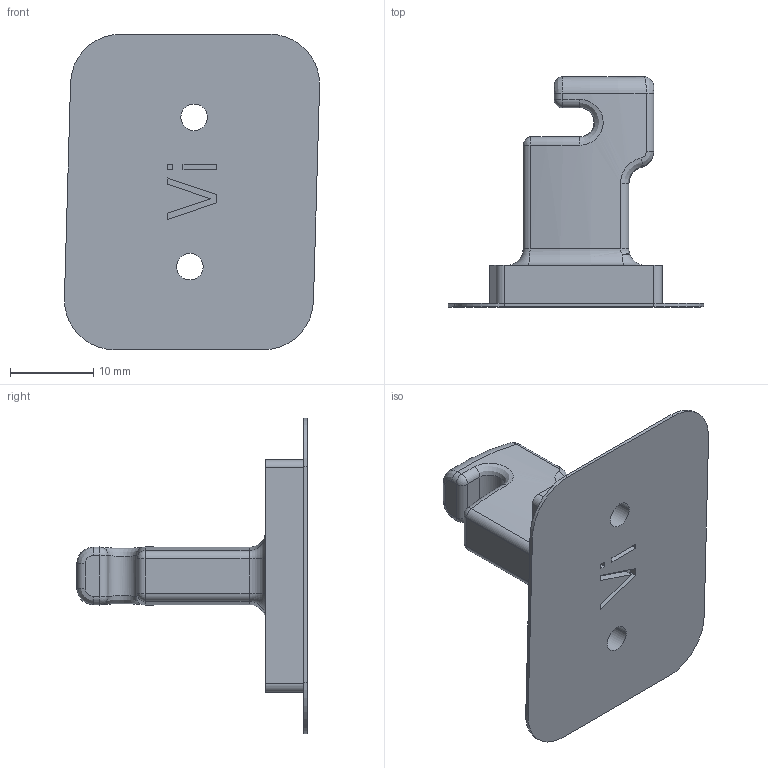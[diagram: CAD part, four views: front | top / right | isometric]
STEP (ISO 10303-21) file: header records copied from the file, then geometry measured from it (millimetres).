
FILE_DESCRIPTION((''),'2;1');
FILE_NAME('0000187330','2024-01-10T08:45:18',('Wyndorps'),(''),'CREO PARAMETRIC BY PTC INC, 2022484','CREO PARAMETRIC BY PTC INC, 2022484','');
FILE_SCHEMA(('CONFIG_CONTROL_DESIGN'));
Length unit declared in the file: millimetre
Products named in the file (1): 0000187330
Bounding box: 30.74 x 27.75 x 38 mm (x, y, z)
Volume: 4680.4 mm3; surface area: 3594.7 mm2
Topology: 1 solids, 1 shells, 101 faces, 236 edges, 142 vertices
Faces by surface type: plane 36, cylinder 31, torus 12, bspline 12, sphere 6, cone 4
Entity records: 3956 total; most frequent: CARTESIAN_POINT 1629, DIRECTION 484, ORIENTED_EDGE 472, EDGE_CURVE 236, AXIS2_PLACEMENT_3D 183, VERTEX_POINT 142, VECTOR 118, LINE 118
